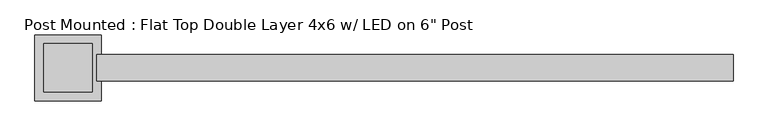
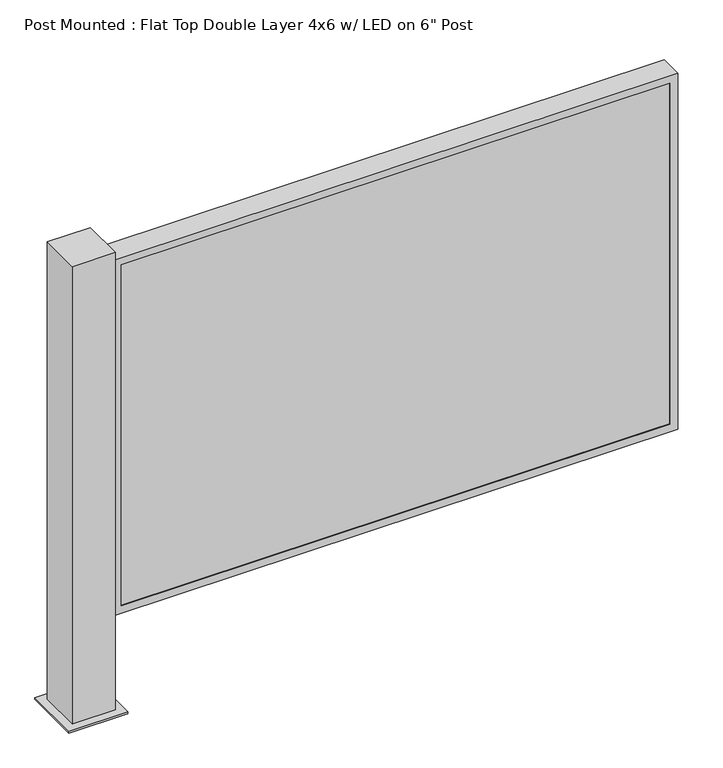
"""IFC4 building model written with IfcOpenShell, lengths in millimetres: proxy geometry."""

from ifc_helpers import new_model, si_unit, frame, origin, origin_with_axes, place, context, project, spatial, polyline, outline, extrude, source, transform, mapped, element, save


def proxy_0fe0f50c(model_context):
    return source(origin(), model_context, "Body", "SweptSolid", [
        extrude(outline(polyline([(1498.6, -841.557955), (330.2, -841.557955), (330.2, 936.442045), (1498.6, 936.442045), (1498.6, -841.557955)]), holes=[polyline([(333.375, 933.267045), (333.375, -838.382955), (1495.425, -838.382955), (1495.425, 933.267045), (333.375, 933.267045)])]), frame((0.0, -31.75, 0.0), z_axis=(0.0, 1.0, 0.0), x_axis=(0.0, 0.0, 1.0)), (0.0, 0.0, 1.0), 63.5),
        extrude(outline(polyline([(-854.257955, 95.25), (-854.257955, -95.25), (-1044.757955, -95.25), (-1044.757955, 95.25), (-854.257955, 95.25)])), origin_with_axes(), (0.0, 0.0, 1.0), 6.35),
        extrude(outline(polyline([(936.442045, -34.925), (-841.557955, -34.925), (-841.557955, -31.75), (936.442045, -31.75), (936.442045, -34.925)])), frame((0.0, 0.0, 330.2), z_axis=(0.0, 0.0, 1.0), x_axis=(1.0, 0.0, 0.0)), (0.0, 0.0, 1.0), 1168.4),
        extrude(outline(polyline([(936.442045, 31.75), (-841.557955, 31.75), (-841.557955, 34.925), (936.442045, 34.925), (936.442045, 31.75)])), frame((0.0, 0.0, 330.2), z_axis=(0.0, 0.0, 1.0), x_axis=(1.0, 0.0, 0.0)), (0.0, 0.0, 1.0), 1168.4),
        extrude(outline(polyline([(1524.0, 961.842045), (1524.0, -866.957955), (304.8, -866.957955), (304.8, 961.842045), (1524.0, 961.842045)]), holes=[polyline([(1498.6, 936.442045), (330.2, 936.442045), (330.2, -841.557955), (1498.6, -841.557955), (1498.6, 936.442045)])]), frame((0.0, -38.1, 0.0), z_axis=(0.0, 1.0, 0.0), x_axis=(0.0, 0.0, 1.0)), (0.0, 0.0, 1.0), 76.2),
        extrude(outline(polyline([(-879.657955, 69.85), (-879.657955, -69.85), (-1019.357955, -69.85), (-1019.357955, 69.85), (-879.657955, 69.85)])), frame((0.0, 0.0, 6.35), z_axis=(0.0, 0.0, 1.0), x_axis=(1.0, 0.0, 0.0)), (0.0, 0.0, 1.0), 1568.45),
    ])


if __name__ == "__main__":
    model = new_model("IFC4")
    model_context = context("Model", 3, world=origin())
    ifc_project = project(units=[si_unit("LENGTHUNIT", "METRE", prefix="MILLI")], contexts=[model_context])
    site = spatial("IfcSite", under=ifc_project)
    building = spatial("IfcBuilding", under=site)
    placement = place(None, origin())
    proxy_shape = proxy_0fe0f50c(model_context)
    element("IfcBuildingElementProxy", 1, Name="Post Mounted : Flat Top Double Layer 4x6 w/ LED on 6\" Post", ObjectType="Post Mounted : Flat Top Double Layer 4x6 w/ LED on 6\" Post", at=placement, inside=building, context=model_context, shape_type="MappedRepresentation", body=[
        mapped(proxy_shape, transform((0.0, 0.0, 0.0), x_axis=(1.0, 0.0, 0.0), y_axis=(0.0, 1.0, 0.0), z_axis=(0.0, 0.0, 1.0))),
    ])
    save(model, "model.ifc")
